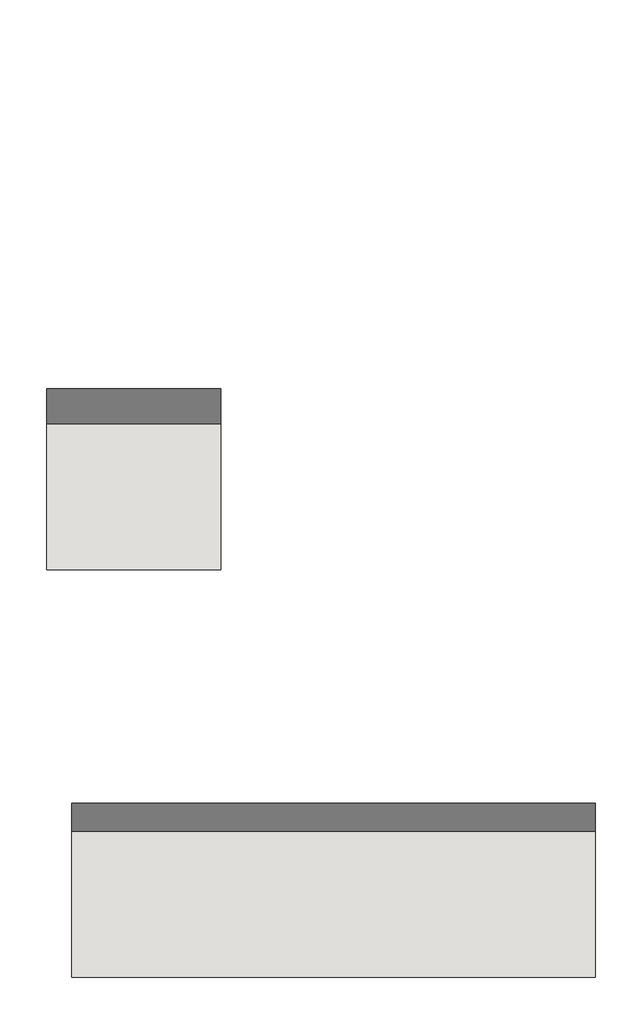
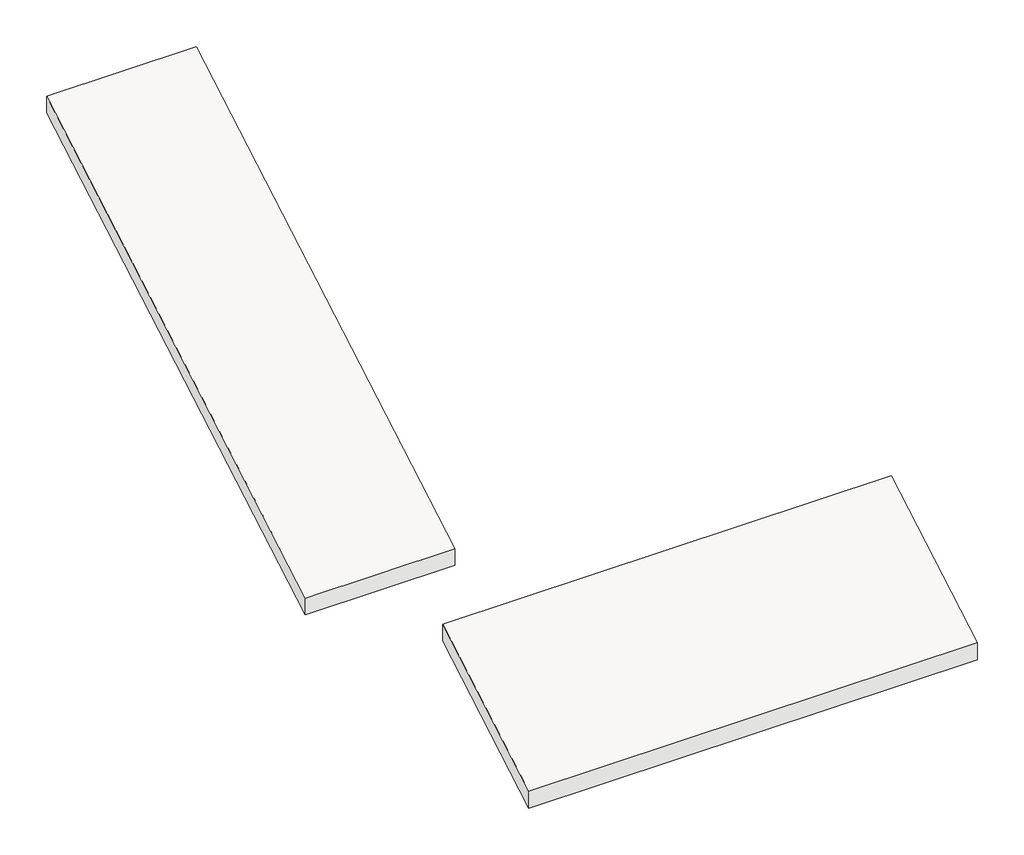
# One storey: 2 roofs.
"""IFC4 building model written with IfcOpenShell, lengths in millimetres."""

from ifc_helpers import new_model, si_unit, frame, origin, place, context, project, spatial, polyline, outline, extrude, element, save

model = new_model("IFC4")

# Units and contexts
model_context = context("Model", 3, world=origin())
ifc_project = project(units=[si_unit("LENGTHUNIT", "METRE", prefix="MILLI")], contexts=[model_context])

# Site, building, storey
site = spatial("IfcSite", under=ifc_project)
building = spatial("IfcBuilding", under=site)
storey = spatial("IfcBuildingStorey", under=building, Name="Этаж 1", Elevation=0.0)

# Roofs
placement = place(None, origin())
element("IfcRoof", 1, ObjectType="ADSK_Плоская_Покрытие_Ут100 ут100-Укл пароизол мембрана5_205", at=placement, inside=storey, context=model_context, shape_type="SweptSolid", body=[
    extrude(outline(polyline([(8972.3209852, 236.7136104), (14972.3209852, 3700.8152255), (14972.3209852, 3464.1016151), (8972.3209852, 0.0), (8972.3209852, 236.7136104)])), frame((10272.2951395, 0.0, 0.0), z_axis=(1.0, 0.0, 0.0), x_axis=(0.0, 1.0, 0.0)), (0.0, 0.0, 1.0), 2000.0),
])
element("IfcRoof", 2, ObjectType="ADSK_Плоская_Покрытие_Ут100 ут100-Укл пароизол мембрана5_205", at=placement, inside=storey, context=model_context, shape_type="SweptSolid", body=[
    extrude(outline(polyline([(4297.2055147, 236.7136104), (6297.2055147, 1391.4141487), (6297.2055147, 1154.7005384), (4297.2055147, 0.0), (4297.2055147, 236.7136104)])), frame((10563.4155146, 0.0, 0.0), z_axis=(1.0, 0.0, 0.0), x_axis=(0.0, 1.0, 0.0)), (0.0, 0.0, 1.0), 6000.0),
])

save(model, "model.ifc")
